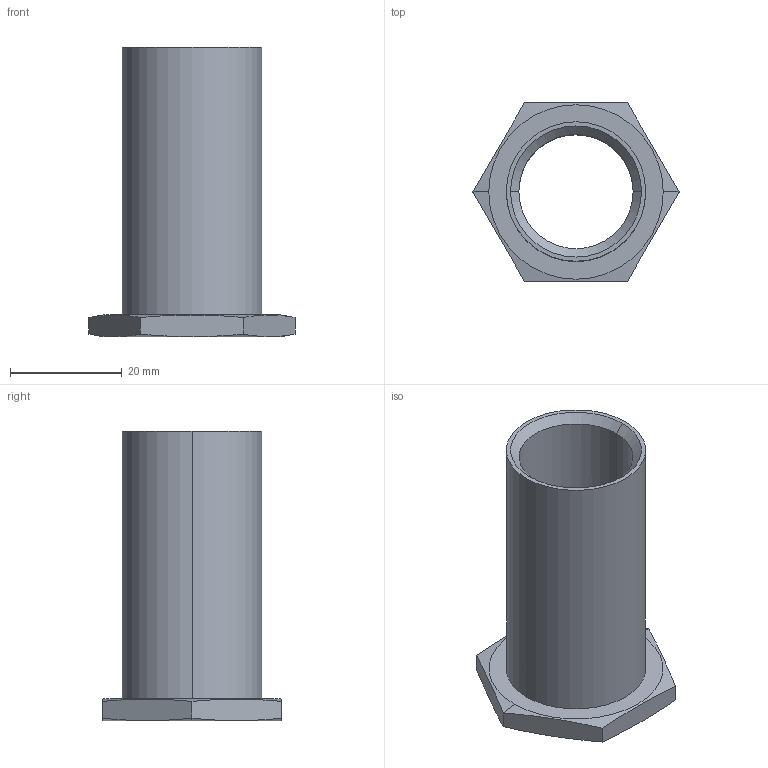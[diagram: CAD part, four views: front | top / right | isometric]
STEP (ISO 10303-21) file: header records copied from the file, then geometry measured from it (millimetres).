
FILE_DESCRIPTION (( 'STEP AP214' ), '1' );
FILE_NAME ('2.TD.007.STEP', '2024-07-11T15:08:40', ( '' ), ( '' ), 'SwSTEP 2.0', 'SolidWorks 2021', '' );
FILE_SCHEMA (( 'AUTOMOTIVE_DESIGN' ));
Length unit declared in the file: millimetre
Products named in the file (1): 2.TD.007
Bounding box: 36.95 x 32 x 52 mm (x, y, z)
Volume: 9609.1 mm3; surface area: 8800.8 mm2
Topology: 1 solids, 1 shells, 32 faces, 91 edges, 62 vertices
Faces by surface type: cylinder 11, plane 10, cone 8, bspline 3
Entity records: 2003 total; most frequent: CARTESIAN_POINT 1145, ORIENTED_EDGE 182, DIRECTION 116, EDGE_CURVE 91, VERTEX_POINT 62, AXIS2_PLACEMENT_3D 45, EDGE_LOOP 35, ADVANCED_FACE 32
